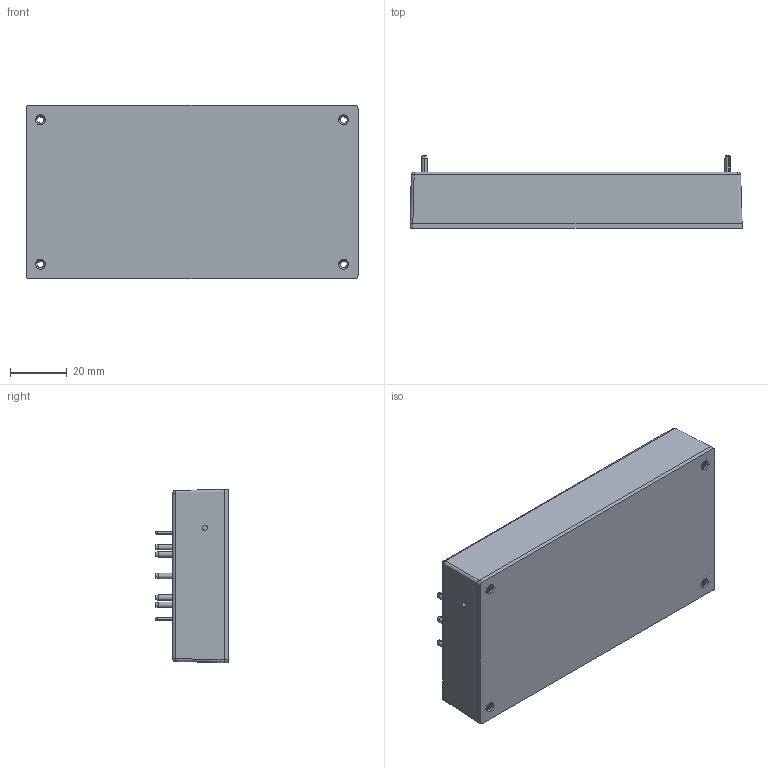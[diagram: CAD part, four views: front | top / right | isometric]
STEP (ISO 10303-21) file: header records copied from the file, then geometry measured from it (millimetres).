
FILE_DESCRIPTION (( 'STEP AP214' ), '1' );
FILE_NAME ('CBM150S.STEP', '2024-01-22T06:23:51', ( 'cincon' ), ( '' ), 'SwSTEP 2.0', 'SolidWorks 2020', '' );
FILE_SCHEMA (( 'AUTOMOTIVE_DESIGN' ));
Length unit declared in the file: millimetre
Products named in the file (1): CBM150S
Bounding box: 116.8 x 25.6 x 61 mm (x, y, z)
Volume: 55069.5 mm3; surface area: 60626.3 mm2
Topology: 1 solids, 5 shells, 1206 faces, 3226 edges, 2128 vertices
Faces by surface type: plane 490, cylinder 482, bspline 166, cone 56, torus 8, sphere 4
Entity records: 72258 total; most frequent: CARTESIAN_POINT 31441, ORIENTED_EDGE 6444, DIRECTION 4718, EDGE_CURVE 3222, VERTEX_POINT 2128, VECTOR 1812, LINE 1812, AXIS2_PLACEMENT_3D 1453
